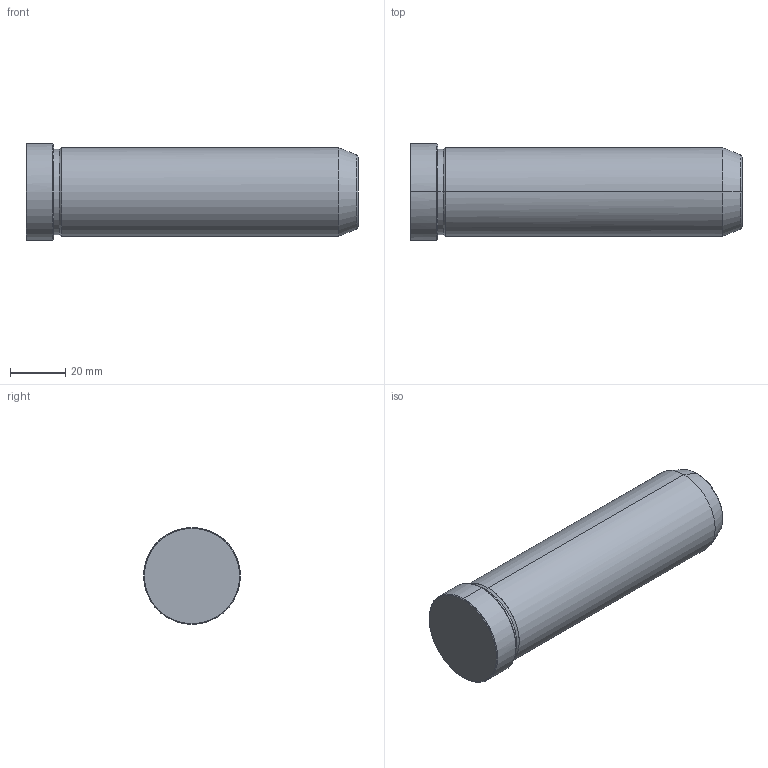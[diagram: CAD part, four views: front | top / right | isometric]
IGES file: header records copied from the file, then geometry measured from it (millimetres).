
Start section: START RECORD GO HERE.
Global section: file name: 549-32X120.igs; native system: DASSAULT SYSTEMES CATIA V5 R20 - www.3ds.com; preprocessor: CATIA Version 5 Release 20 ; author: Utente; organization: NB04-ASUS; date: 20211218.090838; units: millimetre
Bounding box: 120 x 35 x 35 mm (x, y, z)
Surface area: 13813.8 mm2 (no closed solid volume)
Topology: 0 solids, 0 shells, 19 faces, 112 edges, 112 vertices
Faces by surface type: revolution 16, plane 3
